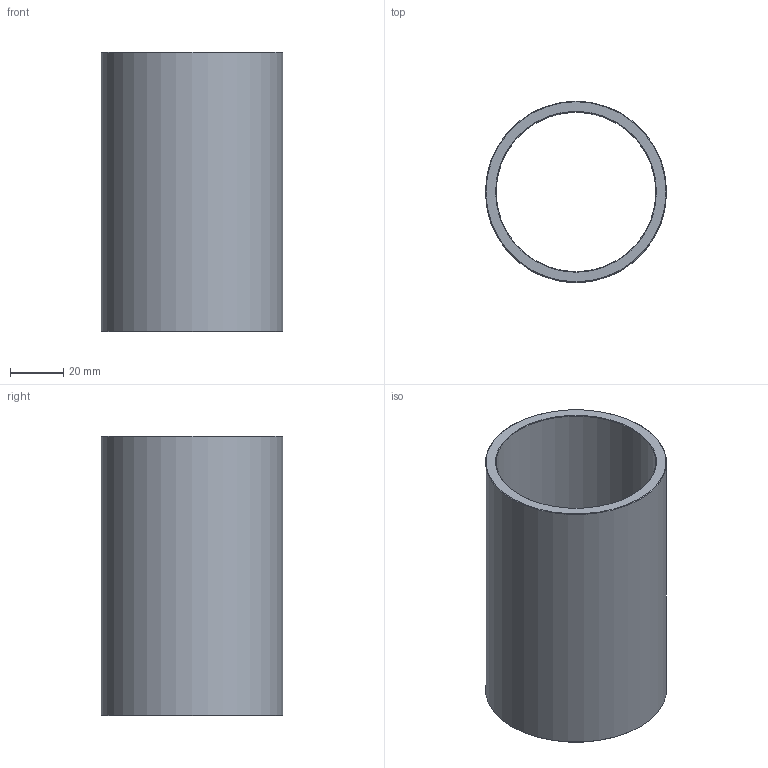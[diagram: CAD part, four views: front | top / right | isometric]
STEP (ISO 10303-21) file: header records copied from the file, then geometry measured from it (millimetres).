
FILE_DESCRIPTION(('STEP AP203'),'1');
FILE_NAME('C:/Users/Rodrigo/Desktop/GA4.060.105-1.step','2016-11-08T12:19:36',(' '),(' '),'Spatial InterOp 3D',' ',' ');
FILE_SCHEMA(('CONFIG_CONTROL_DESIGN'));
Length unit declared in the file: millimetre
Products named in the file (1): 1
Bounding box: 68 x 68 x 105 mm (x, y, z)
Volume: 84429.9 mm3; surface area: 43737.3 mm2
Topology: 1 solids, 1 shells, 8 faces, 14 edges, 8 vertices
Faces by surface type: cone 4, cylinder 2, plane 2
Full cylindrical faces by diameter (mm): 60 x1, 68 x1
Entity records: 212 total; most frequent: DIRECTION 34, CARTESIAN_POINT 25, AXIS2_PLACEMENT_3D 17, EDGE_LOOP 16, ORIENTED_EDGE 16, FACE_OUTER_BOUND 10, ADVANCED_FACE 8, EDGE_CURVE 8
